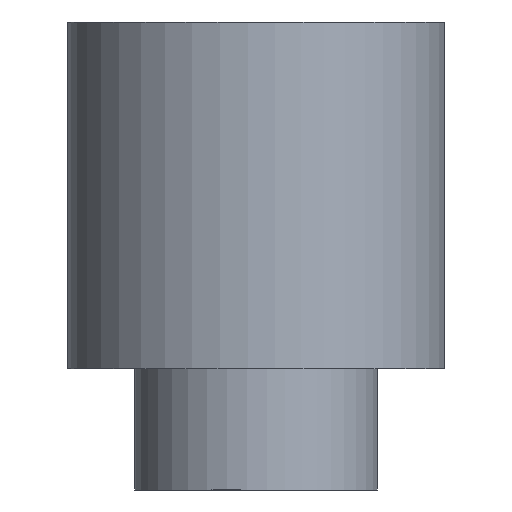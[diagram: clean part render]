
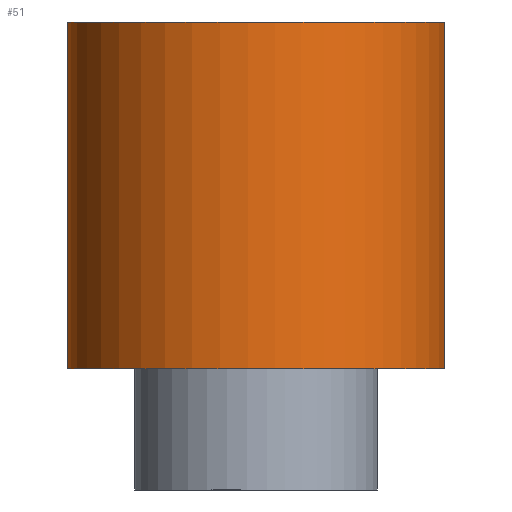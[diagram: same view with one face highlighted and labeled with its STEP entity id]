
A CAD part, front view. The second image highlights one B-rep face of the part: STEP entity #51.
In plain terms, the highlighted free-form (B-spline) face has degree [2, 1] with [7, 2] control points.
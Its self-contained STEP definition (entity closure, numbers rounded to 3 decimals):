
#35 = EDGE_CURVE('',#36,#36,#38,.T.);
#36 = VERTEX_POINT('',#37);
#37 = CARTESIAN_POINT('',(-2.175,0.,4.));
#38 = ( BOUNDED_CURVE() B_SPLINE_CURVE(2,(#39,#40,#41,#42,#43,#44,#45),
.UNSPECIFIED.,.T.,.F.) B_SPLINE_CURVE_WITH_KNOTS((1,2,2,2,2,1),(
    -2.094,0.,2.094,4.189,6.283,
8.378),.UNSPECIFIED.) CURVE() GEOMETRIC_REPRESENTATION_ITEM() 
RATIONAL_B_SPLINE_CURVE((1.,0.5,1.,0.5,1.,0.5,1.)) REPRESENTATION_ITEM(
  '') );
#39 = CARTESIAN_POINT('',(-2.175,0.,4.));
#40 = CARTESIAN_POINT('',(-2.175,3.767,4.));
#41 = CARTESIAN_POINT('',(1.088,1.884,4.));
#42 = CARTESIAN_POINT('',(4.35,0.,4.));
#43 = CARTESIAN_POINT('',(1.088,-1.884,4.));
#44 = CARTESIAN_POINT('',(-2.175,-3.767,4.));
#45 = CARTESIAN_POINT('',(-2.175,0.,4.));
#51 = ADVANCED_FACE('',(#52),#73,.T.);
#52 = FACE_BOUND('',#53,.T.);
#53 = EDGE_LOOP('',(#54,#66,#71,#72));
#54 = ORIENTED_EDGE('',*,*,#55,.F.);
#55 = EDGE_CURVE('',#56,#56,#58,.T.);
#56 = VERTEX_POINT('',#57);
#57 = CARTESIAN_POINT('',(-2.175,0.,0.));
#58 = ( BOUNDED_CURVE() B_SPLINE_CURVE(2,(#59,#60,#61,#62,#63,#64,#65),
.UNSPECIFIED.,.T.,.F.) B_SPLINE_CURVE_WITH_KNOTS((1,2,2,2,2,1),(
    -2.094,0.,2.094,4.189,6.283,
8.378),.UNSPECIFIED.) CURVE() GEOMETRIC_REPRESENTATION_ITEM() 
RATIONAL_B_SPLINE_CURVE((1.,0.5,1.,0.5,1.,0.5,1.)) REPRESENTATION_ITEM(
  '') );
#59 = CARTESIAN_POINT('',(-2.175,0.,0.));
#60 = CARTESIAN_POINT('',(-2.175,3.767,0.));
#61 = CARTESIAN_POINT('',(1.088,1.884,0.));
#62 = CARTESIAN_POINT('',(4.35,0.,0.));
#63 = CARTESIAN_POINT('',(1.088,-1.884,0.));
#64 = CARTESIAN_POINT('',(-2.175,-3.767,0.));
#65 = CARTESIAN_POINT('',(-2.175,0.,0.));
#66 = ORIENTED_EDGE('',*,*,#67,.T.);
#67 = EDGE_CURVE('',#56,#36,#68,.T.);
#68 = B_SPLINE_CURVE_WITH_KNOTS('',1,(#69,#70),.UNSPECIFIED.,.F.,.F.,(2,
    2),(1.4,5.4),.PIECEWISE_BEZIER_KNOTS.);
#69 = CARTESIAN_POINT('',(-2.175,0.,0.));
#70 = CARTESIAN_POINT('',(-2.175,0.,4.));
#71 = ORIENTED_EDGE('',*,*,#35,.T.);
#72 = ORIENTED_EDGE('',*,*,#67,.F.);
#73 = ( BOUNDED_SURFACE() B_SPLINE_SURFACE(2,1,(
    (#74,#75)
    ,(#76,#77)
    ,(#78,#79)
    ,(#80,#81)
    ,(#82,#83)
    ,(#84,#85)
,(#86,#87
    )),.UNSPECIFIED.,.T.,.F.,.F.) B_SPLINE_SURFACE_WITH_KNOTS((1,2,2,2,2
    ,1),(2,2),(-2.094,0.,2.094,4.189,
    6.283,8.378),(1.4,5.4),.UNSPECIFIED.) 
GEOMETRIC_REPRESENTATION_ITEM() RATIONAL_B_SPLINE_SURFACE((
    (1.,1.)
    ,(0.5,0.5)
    ,(1.,1.)
    ,(0.5,0.5)
    ,(1.,1.)
    ,(0.5,0.5)
,(1.,1.))) REPRESENTATION_ITEM('') SURFACE() );
#74 = CARTESIAN_POINT('',(-2.175,0.,0.));
#75 = CARTESIAN_POINT('',(-2.175,0.,4.));
#76 = CARTESIAN_POINT('',(-2.175,-3.767,0.));
#77 = CARTESIAN_POINT('',(-2.175,-3.767,4.));
#78 = CARTESIAN_POINT('',(1.088,-1.884,0.));
#79 = CARTESIAN_POINT('',(1.088,-1.884,4.));
#80 = CARTESIAN_POINT('',(4.35,0.,0.));
#81 = CARTESIAN_POINT('',(4.35,0.,4.));
#82 = CARTESIAN_POINT('',(1.088,1.884,0.));
#83 = CARTESIAN_POINT('',(1.088,1.884,4.));
#84 = CARTESIAN_POINT('',(-2.175,3.767,0.));
#85 = CARTESIAN_POINT('',(-2.175,3.767,4.));
#86 = CARTESIAN_POINT('',(-2.175,0.,0.));
#87 = CARTESIAN_POINT('',(-2.175,0.,4.));
